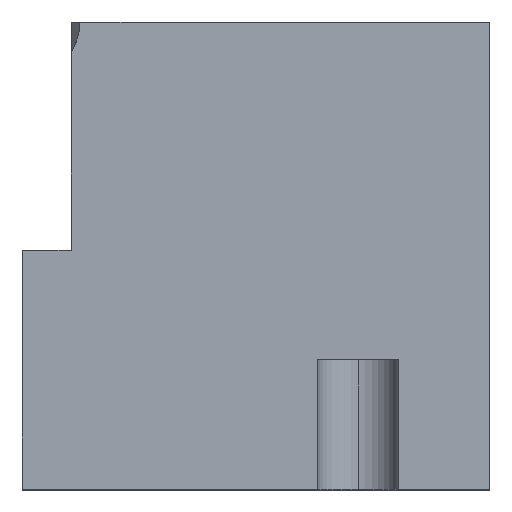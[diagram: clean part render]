
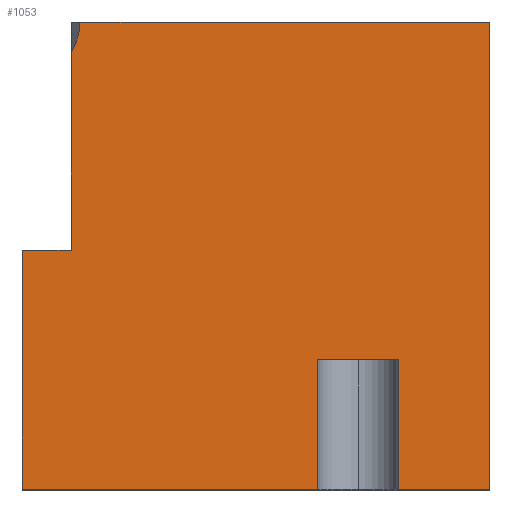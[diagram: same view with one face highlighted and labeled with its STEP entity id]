
A CAD part, top view. The second image highlights one B-rep face of the part: STEP entity #1053.
In plain terms, the highlighted planar face has unit normal (0, 0, 1).
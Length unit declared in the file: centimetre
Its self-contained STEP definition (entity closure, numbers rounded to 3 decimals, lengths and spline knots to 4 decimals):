
#4 = CARTESIAN_POINT ( 'NONE',  ( 805.2158, 277.0403, 1000. ) ) ;
#16 = EDGE_CURVE ( 'NONE', #1357, #1475, #1478, .T. ) ;
#33 = ORIENTED_EDGE ( 'NONE', *, *, #1131, .F. ) ;
#39 = EDGE_CURVE ( 'NONE', #975, #170, #221, .T. ) ;
#69 = CARTESIAN_POINT ( 'NONE',  ( 805.2158, 277.0403, 1000. ) ) ;
#79 = LINE ( 'NONE', #584, #1141 ) ;
#107 = EDGE_LOOP ( 'NONE', ( #33, #478, #736, #671, #1220, #1442, #595, #1202, #1584, #762, #824 ) ) ;
#124 = LINE ( 'NONE', #241, #1324 ) ;
#170 = VERTEX_POINT ( 'NONE', #1378 ) ;
#177 = VERTEX_POINT ( 'NONE', #4 ) ;
#179 = CARTESIAN_POINT ( 'NONE',  ( 1000., 1000., 1000. ) ) ;
#187 = CARTESIAN_POINT ( 'NONE',  ( 1000., 0., 1000. ) ) ;
#221 = LINE ( 'NONE', #974, #1483 ) ;
#230 = VERTEX_POINT ( 'NONE', #820 ) ;
#241 = CARTESIAN_POINT ( 'NONE',  ( 0., 1000., 1000. ) ) ;
#301 = CARTESIAN_POINT ( 'NONE',  ( 0., 0., 1000. ) ) ;
#317 = DIRECTION ( 'NONE',  ( 0., -1., 0. ) ) ;
#326 = EDGE_CURVE ( 'NONE', #1578, #1457, #1532, .T. ) ;
#359 = PLANE ( 'NONE',  #1536 ) ;
#428 = VERTEX_POINT ( 'NONE', #1617 ) ;
#457 = LINE ( 'NONE', #581, #1405 ) ;
#475 = VECTOR ( 'NONE', #939, 100. ) ;
#478 = ORIENTED_EDGE ( 'NONE', *, *, #621, .F. ) ;
#492 = DIRECTION ( 'NONE',  ( -1., 0., 0. ) ) ;
#581 = CARTESIAN_POINT ( 'NONE',  ( 631.6018, 277.0403, 1000. ) ) ;
#584 = CARTESIAN_POINT ( 'NONE',  ( 0., 1000., 1000. ) ) ;
#595 = ORIENTED_EDGE ( 'NONE', *, *, #1447, .F. ) ;
#618 = CARTESIAN_POINT ( 'NONE',  ( 0., 0., 1000. ) ) ;
#621 = EDGE_CURVE ( 'NONE', #177, #428, #920, .T. ) ;
#623 = EDGE_CURVE ( 'NONE', #1578, #975, #79, .T. ) ;
#670 = CARTESIAN_POINT ( 'NONE',  ( 104.4411, 934.7708, 1000. ) ) ;
#671 = ORIENTED_EDGE ( 'NONE', *, *, #681, .T. ) ;
#681 = EDGE_CURVE ( 'NONE', #901, #1357, #1418, .T. ) ;
#694 = CARTESIAN_POINT ( 'NONE',  ( 0., 1000., 1000. ) ) ;
#696 = DIRECTION ( 'NONE',  ( 1., 0., 0. ) ) ;
#718 = EDGE_CURVE ( 'NONE', #177, #901, #809, .T. ) ;
#736 = ORIENTED_EDGE ( 'NONE', *, *, #718, .T. ) ;
#762 = ORIENTED_EDGE ( 'NONE', *, *, #623, .T. ) ;
#781 = VECTOR ( 'NONE', #1316, 100. ) ;
#786 = AXIS2_PLACEMENT_3D ( 'NONE', #694, #1180, #1075 ) ;
#802 = DIRECTION ( 'NONE',  ( -1., 0., 0. ) ) ;
#809 = LINE ( 'NONE', #69, #1533 ) ;
#820 = CARTESIAN_POINT ( 'NONE',  ( 123.1373, 1000., 1000. ) ) ;
#824 = ORIENTED_EDGE ( 'NONE', *, *, #39, .T. ) ;
#862 = CARTESIAN_POINT ( 'NONE',  ( 1000., 1000., 1000. ) ) ;
#865 = VERTEX_POINT ( 'NONE', #670 ) ;
#868 = DIRECTION ( 'NONE',  ( 0., 0., 1. ) ) ;
#869 = EDGE_CURVE ( 'NONE', #1457, #865, #1414, .T. ) ;
#901 = VERTEX_POINT ( 'NONE', #1164 ) ;
#920 = LINE ( 'NONE', #1050, #1328 ) ;
#939 = DIRECTION ( 'NONE',  ( 1., 0., 0. ) ) ;
#946 = DIRECTION ( 'NONE',  ( 0., -1., 0. ) ) ;
#965 = CARTESIAN_POINT ( 'NONE',  ( 0., 0., 1000. ) ) ;
#974 = CARTESIAN_POINT ( 'NONE',  ( 0., 0., 1000. ) ) ;
#975 = VERTEX_POINT ( 'NONE', #965 ) ;
#1050 = CARTESIAN_POINT ( 'NONE',  ( 0., 277.0403, 1000. ) ) ;
#1053 = ADVANCED_FACE ( 'NONE', ( #1477 ), #359, .T. ) ;
#1075 = DIRECTION ( 'NONE',  ( 1., 0., 0. ) ) ;
#1131 = EDGE_CURVE ( 'NONE', #428, #170, #457, .T. ) ;
#1141 = VECTOR ( 'NONE', #317, 100. ) ;
#1158 = CARTESIAN_POINT ( 'NONE',  ( 104.4411, 511.2487, 1000. ) ) ;
#1164 = CARTESIAN_POINT ( 'NONE',  ( 805.2158, 0., 1000. ) ) ;
#1180 = DIRECTION ( 'NONE',  ( 0., 0., 1. ) ) ;
#1202 = ORIENTED_EDGE ( 'NONE', *, *, #869, .F. ) ;
#1209 = DIRECTION ( 'NONE',  ( 1., 0., 0. ) ) ;
#1212 = VECTOR ( 'NONE', #1356, 100. ) ;
#1220 = ORIENTED_EDGE ( 'NONE', *, *, #16, .T. ) ;
#1296 = VECTOR ( 'NONE', #696, 100. ) ;
#1308 = DIRECTION ( 'NONE',  ( 0., -1., 0. ) ) ;
#1316 = DIRECTION ( 'NONE',  ( 0., 1., 0. ) ) ;
#1324 = VECTOR ( 'NONE', #492, 100. ) ;
#1328 = VECTOR ( 'NONE', #802, 100. ) ;
#1356 = DIRECTION ( 'NONE',  ( 0., 1., 0. ) ) ;
#1357 = VERTEX_POINT ( 'NONE', #187 ) ;
#1362 = DIRECTION ( 'NONE',  ( 1., 0., 0. ) ) ;
#1378 = CARTESIAN_POINT ( 'NONE',  ( 631.6018, 0., 1000. ) ) ;
#1405 = VECTOR ( 'NONE', #946, 100. ) ;
#1413 = CARTESIAN_POINT ( 'NONE',  ( 0., 511.2487, 1000. ) ) ;
#1414 = LINE ( 'NONE', #1158, #781 ) ;
#1418 = LINE ( 'NONE', #301, #475 ) ;
#1442 = ORIENTED_EDGE ( 'NONE', *, *, #1538, .T. ) ;
#1447 = EDGE_CURVE ( 'NONE', #865, #230, #1614, .T. ) ;
#1457 = VERTEX_POINT ( 'NONE', #1459 ) ;
#1459 = CARTESIAN_POINT ( 'NONE',  ( 104.4411, 511.2487, 1000. ) ) ;
#1475 = VERTEX_POINT ( 'NONE', #179 ) ;
#1477 = FACE_OUTER_BOUND ( 'NONE', #107, .T. ) ;
#1478 = LINE ( 'NONE', #862, #1212 ) ;
#1483 = VECTOR ( 'NONE', #1209, 100. ) ;
#1491 = CARTESIAN_POINT ( 'NONE',  ( 0., 511.2487, 1000. ) ) ;
#1532 = LINE ( 'NONE', #1413, #1296 ) ;
#1533 = VECTOR ( 'NONE', #1308, 100. ) ;
#1536 = AXIS2_PLACEMENT_3D ( 'NONE', #618, #868, #1362 ) ;
#1538 = EDGE_CURVE ( 'NONE', #1475, #230, #124, .T. ) ;
#1578 = VERTEX_POINT ( 'NONE', #1491 ) ;
#1584 = ORIENTED_EDGE ( 'NONE', *, *, #326, .F. ) ;
#1614 = CIRCLE ( 'NONE', #786, 123.1373 ) ;
#1617 = CARTESIAN_POINT ( 'NONE',  ( 631.6018, 277.0403, 1000. ) ) ;
